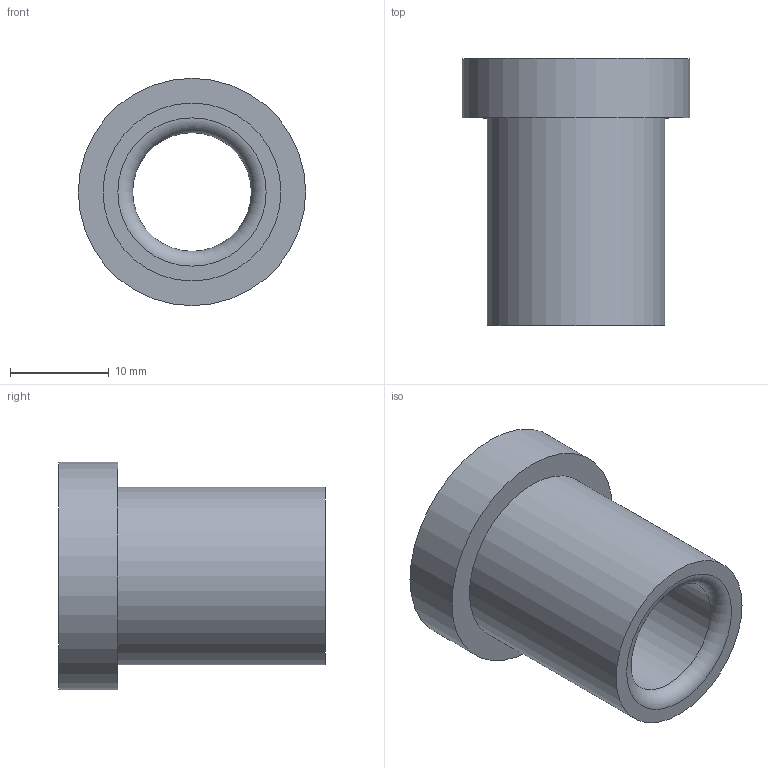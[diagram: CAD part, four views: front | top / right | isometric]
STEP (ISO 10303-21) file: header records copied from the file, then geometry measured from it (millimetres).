
FILE_DESCRIPTION(/* description */ ('STEP AP214'),/* implementation_level */ '2;1');
FILE_NAME(/* name */ '03_12_17839',/* time_stamp */ '2023-06-15T11:35:23+02:00',/* author */ ('License CC BY-ND 4.0'),/* organization */ ('CADENAS'),/* preprocessor_version */ 'ST-DEVELOPER v19.3',/* originating_system */ 'PARTsolutions',/* authorisation */ ' ');
FILE_SCHEMA (('AUTOMOTIVE_DESIGN {1 0 10303 214 3 1 1}'));
Length unit declared in the file: millimetre
Products named in the file (1): VA_Bushing_17839
Bounding box: 23 x 27 x 23 mm (x, y, z)
Volume: 4681.1 mm3; surface area: 3206.1 mm2
Topology: 1 solids, 1 shells, 10 faces, 16 edges, 10 vertices
Faces by surface type: cylinder 4, plane 4, torus 2
Full cylindrical faces by diameter (mm): 12 x1, 12.6 x1, 18 x1, 23 x1
Entity records: 302 total; most frequent: DIRECTION 42, CARTESIAN_POINT 31, AXIS2_PLACEMENT_3D 21, ORIENTED_EDGE 20, EDGE_LOOP 20, FACE_BOUND 20, EDGE_CURVE 10, VERTEX_POINT 10
